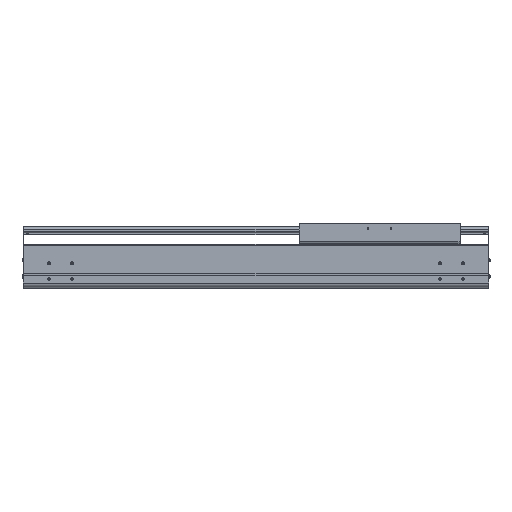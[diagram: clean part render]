
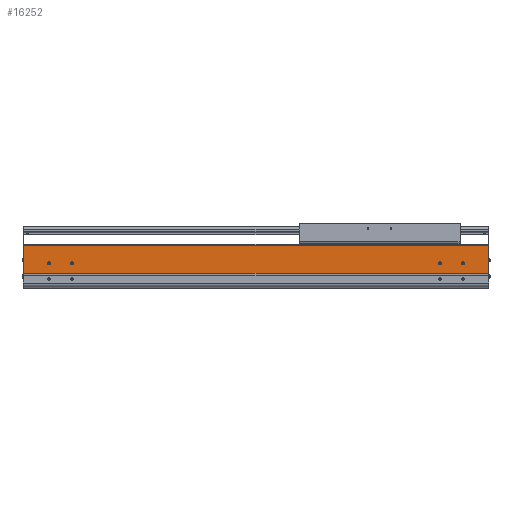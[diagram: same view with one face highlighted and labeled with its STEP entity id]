
A CAD part, top view. The second image highlights one B-rep face of the part: STEP entity #16252.
In plain terms, the highlighted planar face has unit normal (0, 0, 1).
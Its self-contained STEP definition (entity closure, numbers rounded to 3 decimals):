
#1628=DIRECTION('',(0.,-1.,0.));
#1629=VECTOR('',#1628,2.55);
#1630=CARTESIAN_POINT('',(0.,34.65,107.));
#1631=LINE('',#1630,#1629);
#2111=DIRECTION('',(1.,0.,0.));
#2112=VECTOR('',#2111,2.);
#2113=CARTESIAN_POINT('',(-1011.,34.65,107.));
#2114=LINE('',#2113,#2112);
#2115=CARTESIAN_POINT('',(-54.5,54.,107.));
#2116=DIRECTION('',(0.,0.,-1.));
#2117=DIRECTION('',(1.,0.,0.));
#2118=AXIS2_PLACEMENT_3D('',#2115,#2116,#2117);
#2120=CARTESIAN_POINT('',(-54.5,54.,107.));
#2121=DIRECTION('',(0.,0.,-1.));
#2122=DIRECTION('',(-1.,0.,0.));
#2123=AXIS2_PLACEMENT_3D('',#2120,#2121,#2122);
#2125=CARTESIAN_POINT('',(-104.5,54.,107.));
#2126=DIRECTION('',(0.,0.,-1.));
#2127=DIRECTION('',(1.,0.,0.));
#2128=AXIS2_PLACEMENT_3D('',#2125,#2126,#2127);
#2130=CARTESIAN_POINT('',(-104.5,54.,107.));
#2131=DIRECTION('',(0.,0.,-1.));
#2132=DIRECTION('',(-1.,0.,0.));
#2133=AXIS2_PLACEMENT_3D('',#2130,#2131,#2132);
#2135=CARTESIAN_POINT('',(-954.5,54.,107.));
#2136=DIRECTION('',(0.,0.,-1.));
#2137=DIRECTION('',(1.,0.,0.));
#2138=AXIS2_PLACEMENT_3D('',#2135,#2136,#2137);
#2140=CARTESIAN_POINT('',(-954.5,54.,107.));
#2141=DIRECTION('',(0.,0.,-1.));
#2142=DIRECTION('',(-1.,0.,0.));
#2143=AXIS2_PLACEMENT_3D('',#2140,#2141,#2142);
#2145=CARTESIAN_POINT('',(-904.5,54.,107.));
#2146=DIRECTION('',(0.,0.,-1.));
#2147=DIRECTION('',(1.,0.,0.));
#2148=AXIS2_PLACEMENT_3D('',#2145,#2146,#2147);
#2150=CARTESIAN_POINT('',(-904.5,54.,107.));
#2151=DIRECTION('',(0.,0.,-1.));
#2152=DIRECTION('',(-1.,0.,0.));
#2153=AXIS2_PLACEMENT_3D('',#2150,#2151,#2152);
#2155=DIRECTION('',(0.,-1.,0.));
#2156=VECTOR('',#2155,2.55);
#2157=CARTESIAN_POINT('',(-1009.,34.65,107.));
#2158=LINE('',#2157,#2156);
#2159=DIRECTION('',(0.,-1.,0.));
#2160=VECTOR('',#2159,58.85);
#2161=CARTESIAN_POINT('',(-1011.,93.5,107.));
#2162=LINE('',#2161,#2160);
#2163=DIRECTION('',(0.,1.,0.));
#2164=VECTOR('',#2163,58.85);
#2165=CARTESIAN_POINT('',(2.,34.65,107.));
#2166=LINE('',#2165,#2164);
#2167=DIRECTION('',(1.,0.,0.));
#2168=VECTOR('',#2167,1009.);
#2169=CARTESIAN_POINT('',(-1009.,32.1,107.));
#2170=LINE('',#2169,#2168);
#2275=DIRECTION('',(-1.,0.,0.));
#2276=VECTOR('',#2275,1013.);
#2277=CARTESIAN_POINT('',(2.,93.5,107.));
#2278=LINE('',#2277,#2276);
#9499=DIRECTION('',(1.,0.,0.));
#9500=VECTOR('',#9499,2.);
#9501=CARTESIAN_POINT('',(0.,34.65,107.));
#9502=LINE('',#9501,#9500);
#10749=CARTESIAN_POINT('',(-1011.,34.65,107.));
#10750=VERTEX_POINT('',#10749);
#10751=CARTESIAN_POINT('',(-1011.,93.5,107.));
#10752=VERTEX_POINT('',#10751);
#10981=CARTESIAN_POINT('',(-1009.,32.1,107.));
#10982=VERTEX_POINT('',#10981);
#11415=CARTESIAN_POINT('',(0.,32.1,107.));
#11416=VERTEX_POINT('',#11415);
#11417=CARTESIAN_POINT('',(-52.,54.,107.));
#11418=CARTESIAN_POINT('',(-57.,54.,107.));
#11419=VERTEX_POINT('',#11417);
#11420=VERTEX_POINT('',#11418);
#11421=CARTESIAN_POINT('',(-102.,54.,107.));
#11422=CARTESIAN_POINT('',(-107.,54.,107.));
#11423=VERTEX_POINT('',#11421);
#11424=VERTEX_POINT('',#11422);
#11425=CARTESIAN_POINT('',(-952.,54.,107.));
#11426=CARTESIAN_POINT('',(-957.,54.,107.));
#11427=VERTEX_POINT('',#11425);
#11428=VERTEX_POINT('',#11426);
#11429=CARTESIAN_POINT('',(-902.,54.,107.));
#11430=CARTESIAN_POINT('',(-907.,54.,107.));
#11431=VERTEX_POINT('',#11429);
#11432=VERTEX_POINT('',#11430);
#12442=CARTESIAN_POINT('',(2.,34.65,107.));
#12443=VERTEX_POINT('',#12442);
#12444=CARTESIAN_POINT('',(2.,93.5,107.));
#12445=VERTEX_POINT('',#12444);
#12788=CARTESIAN_POINT('',(0.,34.65,107.));
#12789=VERTEX_POINT('',#12788);
#12976=CARTESIAN_POINT('',(-1009.,34.65,107.));
#12977=VERTEX_POINT('',#12976);
#16210=CARTESIAN_POINT('',(-504.5,62.8,107.));
#16211=DIRECTION('',(0.,0.,1.));
#16212=DIRECTION('',(0.,-1.,0.));
#16213=AXIS2_PLACEMENT_3D('',#16210,#16211,#16212);
#16214=PLANE('',#16213);
#16215=ORIENTED_EDGE('',*,*,#14463,.F.);
#16216=ORIENTED_EDGE('',*,*,#16205,.F.);
#16217=ORIENTED_EDGE('',*,*,#15092,.F.);
#16219=ORIENTED_EDGE('',*,*,#16218,.F.);
#16220=ORIENTED_EDGE('',*,*,#14201,.F.);
#16222=ORIENTED_EDGE('',*,*,#16221,.F.);
#16223=ORIENTED_EDGE('',*,*,#15812,.T.);
#16225=ORIENTED_EDGE('',*,*,#16224,.F.);
#16226=EDGE_LOOP('',(#16215,#16216,#16217,#16219,#16220,#16222,#16223,#16225));
#16227=FACE_OUTER_BOUND('',#16226,.F.);
#16229=ORIENTED_EDGE('',*,*,#16228,.F.);
#16231=ORIENTED_EDGE('',*,*,#16230,.F.);
#16232=EDGE_LOOP('',(#16229,#16231));
#16233=FACE_BOUND('',#16232,.F.);
#16235=ORIENTED_EDGE('',*,*,#16234,.F.);
#16237=ORIENTED_EDGE('',*,*,#16236,.F.);
#16238=EDGE_LOOP('',(#16235,#16237));
#16239=FACE_BOUND('',#16238,.F.);
#16241=ORIENTED_EDGE('',*,*,#16240,.F.);
#16243=ORIENTED_EDGE('',*,*,#16242,.F.);
#16244=EDGE_LOOP('',(#16241,#16243));
#16245=FACE_BOUND('',#16244,.F.);
#16247=ORIENTED_EDGE('',*,*,#16246,.F.);
#16249=ORIENTED_EDGE('',*,*,#16248,.F.);
#16250=EDGE_LOOP('',(#16247,#16249));
#16251=FACE_BOUND('',#16250,.F.);
#16252=ADVANCED_FACE('',(#16227,#16233,#16239,#16245,#16251),#16214,.T.);
#2119=CIRCLE('',#2118,2.5);
#2124=CIRCLE('',#2123,2.5);
#2129=CIRCLE('',#2128,2.5);
#2134=CIRCLE('',#2133,2.5);
#2139=CIRCLE('',#2138,2.5);
#2144=CIRCLE('',#2143,2.5);
#2149=CIRCLE('',#2148,2.5);
#2154=CIRCLE('',#2153,2.5);
#14201=EDGE_CURVE('',#12443,#12445,#2166,.T.);
#14463=EDGE_CURVE('',#12977,#10982,#2158,.T.);
#15092=EDGE_CURVE('',#10752,#10750,#2162,.T.);
#15812=EDGE_CURVE('',#12789,#11416,#1631,.T.);
#16205=EDGE_CURVE('',#10750,#12977,#2114,.T.);
#16218=EDGE_CURVE('',#12445,#10752,#2278,.T.);
#16221=EDGE_CURVE('',#12789,#12443,#9502,.T.);
#16224=EDGE_CURVE('',#10982,#11416,#2170,.T.);
#16228=EDGE_CURVE('',#11423,#11424,#2129,.T.);
#16230=EDGE_CURVE('',#11424,#11423,#2134,.T.);
#16234=EDGE_CURVE('',#11427,#11428,#2139,.T.);
#16236=EDGE_CURVE('',#11428,#11427,#2144,.T.);
#16240=EDGE_CURVE('',#11431,#11432,#2149,.T.);
#16242=EDGE_CURVE('',#11432,#11431,#2154,.T.);
#16246=EDGE_CURVE('',#11419,#11420,#2119,.T.);
#16248=EDGE_CURVE('',#11420,#11419,#2124,.T.);
